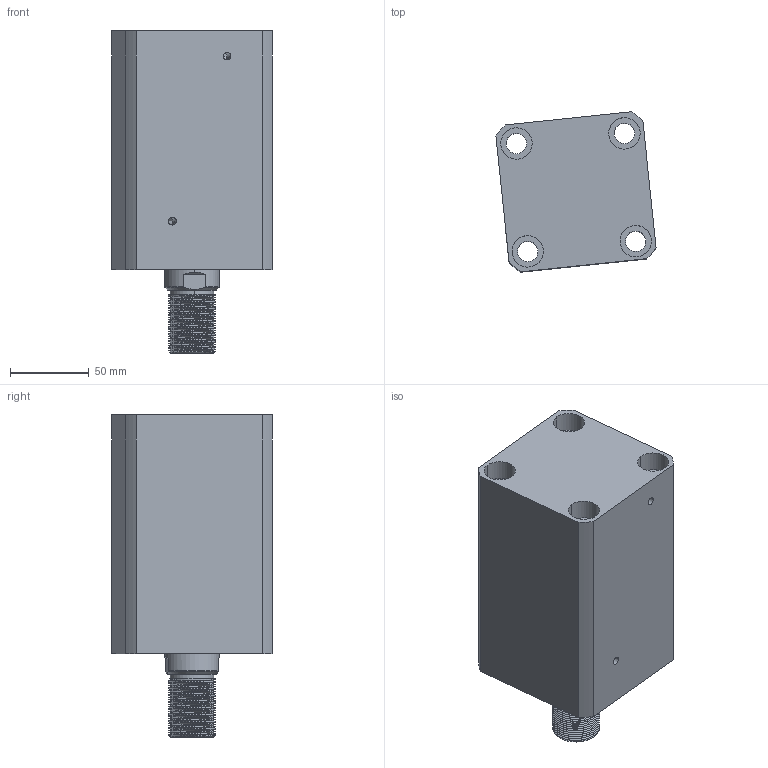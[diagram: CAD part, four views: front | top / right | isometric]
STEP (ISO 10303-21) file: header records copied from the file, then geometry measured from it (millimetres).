
FILE_DESCRIPTION (( 'STEP AP214' ), '1' );
FILE_NAME ('chtb-sdma63x85w_asm.STEP', '2018-05-18T09:40:56', ( 'Windows' ), ( 'Microsoft' ), 'SwSTEP 2.0', 'SolidWorks 2015', '' );
FILE_SCHEMA (( 'AUTOMOTIVE_DESIGN' ));
Length unit declared in the file: millimetre
Products named in the file (4): CHTB-SDMA63X85NBT; CHTB63X85WHSG; CHTB-63QG; chtb-sdma63x85w_asm
Assembly tree (3 placements, depth 2):
  chtb-sdma63x85w_asm
    CHTB-63QG
    CHTB63X85WHSG
    CHTB-SDMA63X85NBT
Bounding box: 101.9 x 101.9 x 205 mm (x, y, z)
Volume: 1083693.8 mm3; surface area: 180250.8 mm2
Topology: 3 solids, 3 shells, 219 faces, 632 edges, 430 vertices
Faces by surface type: cylinder 156, plane 34, bspline 14, cone 9, torus 6
Entity records: 22297 total; most frequent: CARTESIAN_POINT 17024, ORIENTED_EDGE 1256, DIRECTION 878, EDGE_CURVE 628, VERTEX_POINT 430, AXIS2_PLACEMENT_3D 343, EDGE_LOOP 252, ADVANCED_FACE 219
